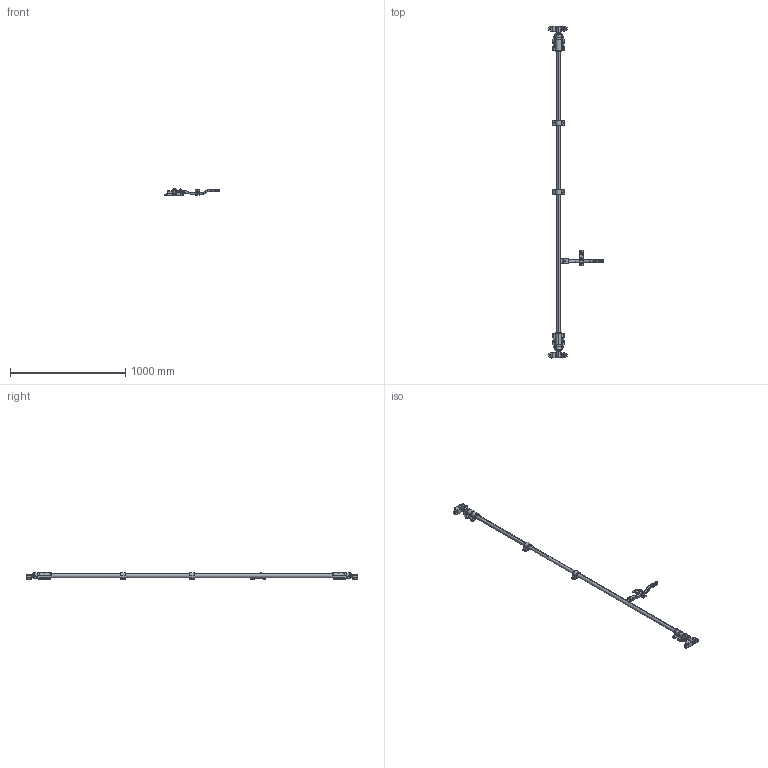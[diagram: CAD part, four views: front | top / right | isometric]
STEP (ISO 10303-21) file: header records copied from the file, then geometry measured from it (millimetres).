
FILE_DESCRIPTION (( 'STEP AP203' ), '1' );
FILE_NAME ('S4205607.STEP', '2014-03-04T07:52:22', ( 'SDS' ), ( 'SDS' ), 'SwSTEP 2.0', 'SolidWorks 2002296', '' );
FILE_SCHEMA (( 'CONFIG_CONTROL_DESIGN' ));
Length unit declared in the file: millimetre
Products named in the file (27): S4205607; S42056071_蹬怮椔; S42056073_蹬怮椔; S42056074_蹬怮椔; S420560714_蹬怮椔; S420560715_蹬怮椔; S42056072_蹬怮椔; S420560710_蹬怮椔; S420560711_蹬怮椔; S42056075_蹬怮椔; S42056076_蹬怮椔; S42056077_蹬怮椔; S42056078_蹬怮椔; S42056079_蹬怮椔; S420560712_蹬怮椔; S420560716_蹬怮椔; S420560717_蹬怮椔; S420560718_蹬怮椔; S420560719_蹬怮椔; S420560713_蹬怮椔; S420560720_蹬怮椔; S420560721_蹬怮椔; S420560722_蹬怮椔; S420560723_蹬怮椔; S420560724_蹬怮椔; S420560725_蹬怮椔; S420560726_蹬怮椔
Assembly tree (26 placements, depth 2):
  S4205607
    S420560715_蹬怮椔
    S42056077_蹬怮椔
    S420560713_蹬怮椔
    S420560716_蹬怮椔
    S420560723_蹬怮椔
    S42056073_蹬怮椔
    S42056072_蹬怮椔
    S420560711_蹬怮椔
    S420560717_蹬怮椔
    S420560718_蹬怮椔
    S420560714_蹬怮椔
    S420560710_蹬怮椔
    S420560726_蹬怮椔
    S420560719_蹬怮椔
    S42056071_蹬怮椔
    S420560720_蹬怮椔
    S42056079_蹬怮椔
    S420560724_蹬怮椔
    S42056074_蹬怮椔
    S420560721_蹬怮椔
    S42056075_蹬怮椔
    S420560712_蹬怮椔
    S42056076_蹬怮椔
    S420560722_蹬怮椔
    S42056078_蹬怮椔
    S420560725_蹬怮椔
Bounding box: 481.98 x 2883 x 55.5 mm (x, y, z)
Volume: 1942272.7 mm3; surface area: 936937.4 mm2
Topology: 26 solids, 26 shells, 2239 faces, 5096 edges, 2917 vertices
Faces by surface type: cylinder 983, bspline 767, plane 453, cone 36
Entity records: 89333 total; most frequent: CARTESIAN_POINT 41080, ORIENTED_EDGE 10180, DIRECTION 8803, EDGE_CURVE 5090, AXIS2_PLACEMENT_3D 3410, VERTEX_POINT 2917, EDGE_LOOP 2311, ADVANCED_FACE 2239
